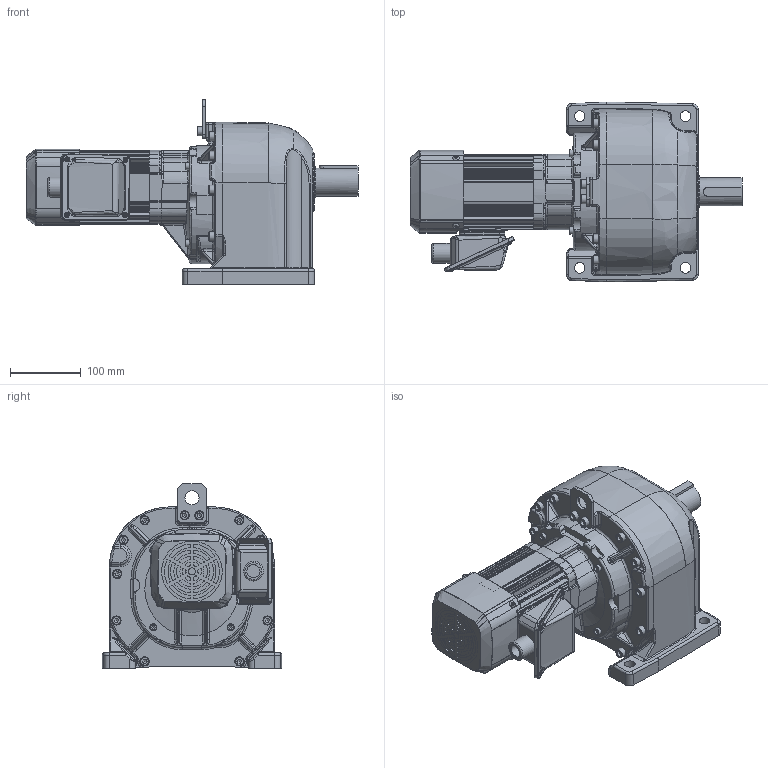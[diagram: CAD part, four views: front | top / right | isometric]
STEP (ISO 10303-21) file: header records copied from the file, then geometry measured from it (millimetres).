
FILE_DESCRIPTION( ( 'Unknown' ), '1' );
FILE_NAME( 'W:/gm/3D-WEB/GV-S/完成品/モータ+減速機/パーツデータ/完成品(GV-S_0.4kw_ブレーキ付_JM_540-900).stp', 'Unknown', ( 'Unknown' ), ( 'Unknown' ), 'PSStep 11.0', 'Unknown', ' ' );
FILE_SCHEMA( ( 'AUTOMOTIVE_DESIGN { 1 0 10303 214 1 1 1 1 }' ) );
Length unit declared in the file: millimetre
Products named in the file (3): 減速機(GV-S_脚取付0.4kw_JM_54
Bounding box: 470.5 x 255 x 262 mm (x, y, z)
Volume: 8257429.9 mm3; surface area: 725448.9 mm2
Topology: 3 solids, 44 shells, 2384 faces, 6002 edges, 3783 vertices
Faces by surface type: cylinder 956, plane 905, bspline 234, torus 182, cone 69, sphere 32, offset 6
Full cylindrical faces by diameter (mm): 3.3 x4, 3.8 x4, 4 x6, 4.134 x12, 4.5 x12, 4.6 x4, 4.917 x8, 5.8 x4, 6 x8, 6.8 x13, 7 x8, 8 x12, 8.2 x1, 9 x10, 9.7 x4, 10 x18, 13 x12, 13.5 x2, 15 x5, 16 x1, 18.631 x2, 20 x1, 22 x1, 28 x1, 40 x1, 45 x1, 45.1 x1, 45.5 x1, 50 x2, 58 x1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
Entity records: 114132 total; most frequent: CARTESIAN_POINT 40519, DIRECTION 11520, ORIENTED_EDGE 11030, EDGE_CURVE 5515, AXIS2_PLACEMENT_3D 4573, VERTEX_POINT 3632, EDGE_LOOP 2830, FACE_OUTER_BOUND 2587
